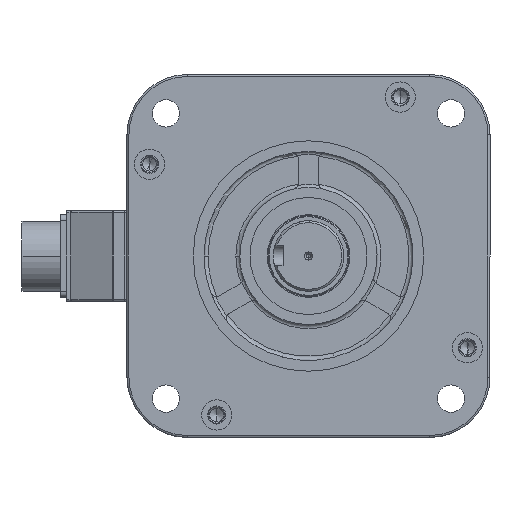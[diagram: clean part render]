
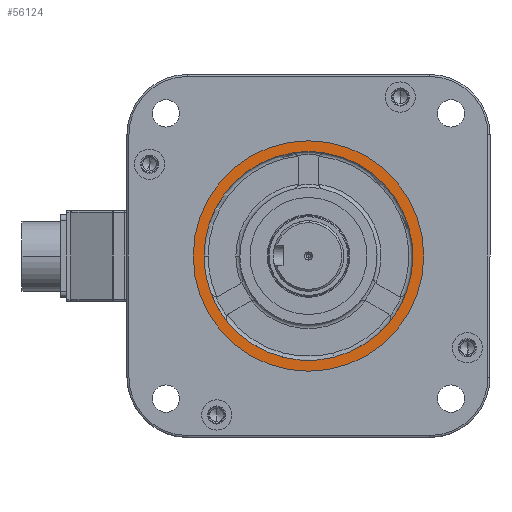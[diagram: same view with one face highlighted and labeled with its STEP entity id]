
A CAD part, left-side view. The second image highlights one B-rep face of the part: STEP entity #56124.
In plain terms, the highlighted planar face has unit normal (-1, 0, 0) as drawn and (0, 0, 1) by its records, which use the part's own axes.
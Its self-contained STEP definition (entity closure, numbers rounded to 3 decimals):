
#516 = AXIS2_PLACEMENT_3D ( 'NONE', #35240, #24583, #6483 ) ;
#971 = AXIS2_PLACEMENT_3D ( 'NONE', #37255, #55539, #17698 ) ;
#1267 = CIRCLE ( 'NONE', #35438, 51.75 ) ;
#3120 = EDGE_CURVE ( 'NONE', #30684, #14024, #10026, .T. ) ;
#4023 = EDGE_CURVE ( 'NONE', #6884, #34480, #58038, .T. ) ;
#4174 = AXIS2_PLACEMENT_3D ( 'NONE', #16125, #6306, #11202 ) ;
#6306 = DIRECTION ( 'NONE',  ( 0., 0., 1. ) ) ;
#6370 = EDGE_CURVE ( 'NONE', #12757, #51760, #44996, .T. ) ;
#6483 = DIRECTION ( 'NONE',  ( 1., 0., 0. ) ) ;
#6541 = VERTEX_POINT ( 'NONE', #50066 ) ;
#6640 = EDGE_CURVE ( 'NONE', #12038, #6884, #30391, .T. ) ;
#6884 = VERTEX_POINT ( 'NONE', #51945 ) ;
#7369 = AXIS2_PLACEMENT_3D ( 'NONE', #59418, #11762, #27066 ) ;
#10026 = CIRCLE ( 'NONE', #4174, 51.75 ) ;
#11202 = DIRECTION ( 'NONE',  ( 1., 0., 0. ) ) ;
#11762 = DIRECTION ( 'NONE',  ( 0., 0., 1. ) ) ;
#12038 = VERTEX_POINT ( 'NONE', #40162 ) ;
#12757 = VERTEX_POINT ( 'NONE', #18678 ) ;
#13185 = DIRECTION ( 'NONE',  ( 0., 0., 1. ) ) ;
#13276 = ORIENTED_EDGE ( 'NONE', *, *, #51498, .F. ) ;
#14024 = VERTEX_POINT ( 'NONE', #29647 ) ;
#14225 = EDGE_CURVE ( 'NONE', #33376, #12038, #20476, .T. ) ;
#14981 = EDGE_LOOP ( 'NONE', ( #33781, #19818 ) ) ;
#16125 = CARTESIAN_POINT ( 'NONE',  ( 0., 0., 21. ) ) ;
#17698 = DIRECTION ( 'NONE',  ( 1., 0., 0. ) ) ;
#18012 = EDGE_CURVE ( 'NONE', #51760, #12757, #23778, .T. ) ;
#18253 = ORIENTED_EDGE ( 'NONE', *, *, #14225, .F. ) ;
#18678 = CARTESIAN_POINT ( 'NONE',  ( -57.15, 0., 21. ) ) ;
#19265 = DIRECTION ( 'NONE',  ( 0., 0., 1. ) ) ;
#19818 = ORIENTED_EDGE ( 'NONE', *, *, #18012, .T. ) ;
#20476 = CIRCLE ( 'NONE', #32241, 51.75 ) ;
#20822 = DIRECTION ( 'NONE',  ( 0., 0., 1. ) ) ;
#23778 = CIRCLE ( 'NONE', #59863, 57.15 ) ;
#24583 = DIRECTION ( 'NONE',  ( 0., 0., 1. ) ) ;
#26377 = ORIENTED_EDGE ( 'NONE', *, *, #3120, .F. ) ;
#26446 = ORIENTED_EDGE ( 'NONE', *, *, #6640, .F. ) ;
#26595 = EDGE_LOOP ( 'NONE', ( #13276, #26377, #27247, #36618, #47634, #26446, #18253 ) ) ;
#26767 = FACE_OUTER_BOUND ( 'NONE', #14981, .T. ) ;
#27066 = DIRECTION ( 'NONE',  ( 1., 0., 0. ) ) ;
#27247 = ORIENTED_EDGE ( 'NONE', *, *, #32712, .F. ) ;
#27359 = CIRCLE ( 'NONE', #971, 51.75 ) ;
#27555 = CARTESIAN_POINT ( 'NONE',  ( 0., 0., 21. ) ) ;
#29647 = CARTESIAN_POINT ( 'NONE',  ( 48.455, 18.17, 21. ) ) ;
#29819 = EDGE_CURVE ( 'NONE', #34480, #6541, #32745, .T. ) ;
#30391 = CIRCLE ( 'NONE', #34080, 51.75 ) ;
#30684 = VERTEX_POINT ( 'NONE', #48162 ) ;
#30932 = CARTESIAN_POINT ( 'NONE',  ( 0., 0., 21. ) ) ;
#31793 = CARTESIAN_POINT ( 'NONE',  ( -8.492, -51.048, 21. ) ) ;
#32068 = DIRECTION ( 'NONE',  ( 1., 0., 0. ) ) ;
#32143 = DIRECTION ( 'NONE',  ( 1., 0., 0. ) ) ;
#32241 = AXIS2_PLACEMENT_3D ( 'NONE', #30932, #13185, #32143 ) ;
#32712 = EDGE_CURVE ( 'NONE', #6541, #30684, #1267, .T. ) ;
#32745 = CIRCLE ( 'NONE', #516, 51.75 ) ;
#33035 = CARTESIAN_POINT ( 'NONE',  ( 0., 0., 21. ) ) ;
#33376 = VERTEX_POINT ( 'NONE', #42147 ) ;
#33781 = ORIENTED_EDGE ( 'NONE', *, *, #6370, .T. ) ;
#34080 = AXIS2_PLACEMENT_3D ( 'NONE', #27555, #55622, #47078 ) ;
#34480 = VERTEX_POINT ( 'NONE', #31793 ) ;
#35240 = CARTESIAN_POINT ( 'NONE',  ( 0., 0., 21. ) ) ;
#35438 = AXIS2_PLACEMENT_3D ( 'NONE', #58105, #20822, #49218 ) ;
#36618 = ORIENTED_EDGE ( 'NONE', *, *, #29819, .F. ) ;
#37255 = CARTESIAN_POINT ( 'NONE',  ( 0., 0., 21. ) ) ;
#37397 = DIRECTION ( 'NONE',  ( 0., 0., 1. ) ) ;
#37914 = DIRECTION ( 'NONE',  ( 1., 0., 0. ) ) ;
#39160 = AXIS2_PLACEMENT_3D ( 'NONE', #33035, #19265, #37914 ) ;
#39898 = FACE_BOUND ( 'NONE', #26595, .T. ) ;
#40162 = CARTESIAN_POINT ( 'NONE',  ( -39.963, 32.879, 21. ) ) ;
#40464 = CARTESIAN_POINT ( 'NONE',  ( 57.15, 0., 21. ) ) ;
#42147 = CARTESIAN_POINT ( 'NONE',  ( 39.963, 32.879, 21. ) ) ;
#44996 = CIRCLE ( 'NONE', #39160, 57.15 ) ;
#46324 = AXIS2_PLACEMENT_3D ( 'NONE', #54043, #58645, #32068 ) ;
#46851 = CARTESIAN_POINT ( 'NONE',  ( 0., 0., 21. ) ) ;
#47078 = DIRECTION ( 'NONE',  ( 1., 0., 0. ) ) ;
#47634 = ORIENTED_EDGE ( 'NONE', *, *, #4023, .F. ) ;
#48162 = CARTESIAN_POINT ( 'NONE',  ( 51.75, 0., 21. ) ) ;
#49218 = DIRECTION ( 'NONE',  ( 1., 0., 0. ) ) ;
#50066 = CARTESIAN_POINT ( 'NONE',  ( 8.492, -51.048, 21. ) ) ;
#50814 = DIRECTION ( 'NONE',  ( 1., 0., 0. ) ) ;
#51498 = EDGE_CURVE ( 'NONE', #14024, #33376, #27359, .T. ) ;
#51760 = VERTEX_POINT ( 'NONE', #40464 ) ;
#51945 = CARTESIAN_POINT ( 'NONE',  ( -48.455, 18.17, 21. ) ) ;
#54043 = CARTESIAN_POINT ( 'NONE',  ( 0., 0., 21. ) ) ;
#55539 = DIRECTION ( 'NONE',  ( 0., 0., 1. ) ) ;
#55622 = DIRECTION ( 'NONE',  ( 0., 0., 1. ) ) ;
#56124 = ADVANCED_FACE ( 'NONE', ( #39898, #26767 ), #58507, .T. ) ;
#58038 = CIRCLE ( 'NONE', #46324, 51.75 ) ;
#58105 = CARTESIAN_POINT ( 'NONE',  ( 0., 0., 21. ) ) ;
#58507 = PLANE ( 'NONE',  #7369 ) ;
#58645 = DIRECTION ( 'NONE',  ( 0., 0., 1. ) ) ;
#59418 = CARTESIAN_POINT ( 'NONE',  ( 0., 0., 21. ) ) ;
#59863 = AXIS2_PLACEMENT_3D ( 'NONE', #46851, #37397, #50814 ) ;
